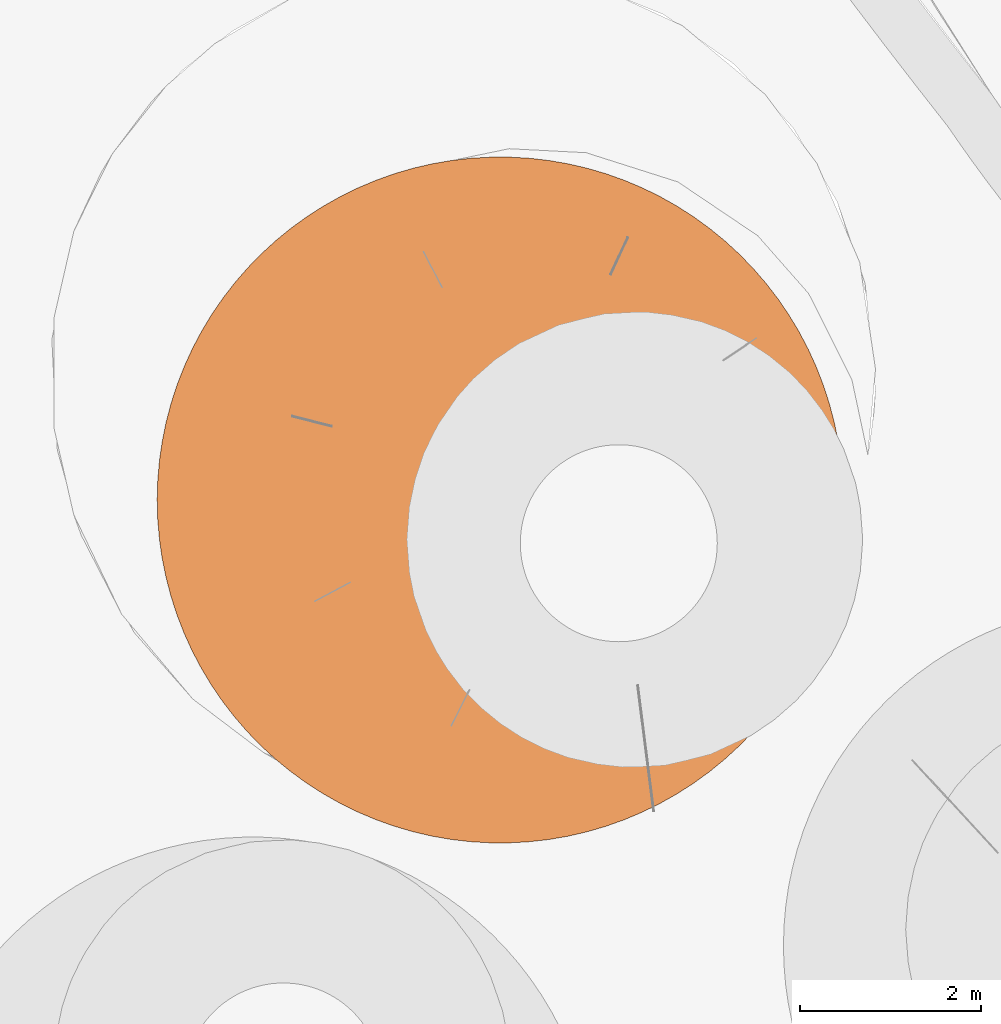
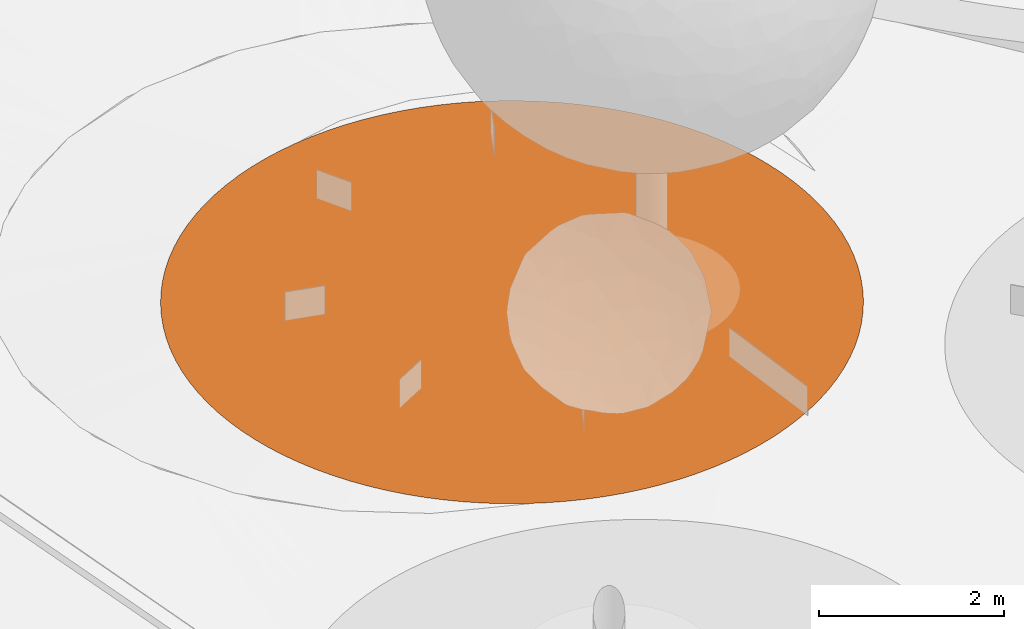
# One storey, part 67 of 75: 1 proxy.
"""IFC2X3 building model written with IfcOpenShell, lengths in metres."""

from ifc_helpers import new_model, entity, si_unit, converted_unit, derived_unit, direction, frame, origin, place, context, subcontext, project, spatial, face_set, surface_model, source, transform, mapped, material, type_object, type_shapes, element, save


model = new_model("IFC2X3")

# Units and contexts
model_context = context("Model", 3, precision=1e-05, world=origin(), true_north=direction((6.123031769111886e-17, 1.0)))
body_context = subcontext(model_context, "Body", "Model", "MODEL_VIEW")
ifc_project = project(units=[si_unit("LENGTHUNIT", "METRE"), si_unit("AREAUNIT", "SQUARE_METRE"), si_unit("VOLUMEUNIT", "CUBIC_METRE"), converted_unit("PLANEANGLEUNIT", "DEGREE", entity("IfcRatioMeasure", 0.017453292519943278), si_unit("PLANEANGLEUNIT", "RADIAN"), dimensions=[0, 0, 0, 0, 0, 0, 0]), si_unit("MASSUNIT", "GRAM", prefix="KILO"), derived_unit("MASSDENSITYUNIT", [(si_unit("MASSUNIT", "GRAM", prefix="KILO"), 1), (si_unit("LENGTHUNIT", "METRE"), -3)]), derived_unit("IONCONCENTRATIONUNIT", [(si_unit("MASSUNIT", "GRAM", prefix="KILO"), 1), (si_unit("LENGTHUNIT", "METRE"), -3)]), derived_unit("MOMENTOFINERTIAUNIT", [(si_unit("LENGTHUNIT", "METRE"), 4)]), si_unit("TIMEUNIT", "SECOND"), si_unit("FREQUENCYUNIT", "HERTZ"), si_unit("THERMODYNAMICTEMPERATUREUNIT", "DEGREE_CELSIUS"), derived_unit("THERMALTRANSMITTANCEUNIT", [(si_unit("MASSUNIT", "GRAM", prefix="KILO"), 1), (si_unit("THERMODYNAMICTEMPERATUREUNIT", "KELVIN"), -1), (si_unit("TIMEUNIT", "SECOND"), -3)]), derived_unit("THERMALCONDUCTANCEUNIT", [(si_unit("MASSUNIT", "GRAM", prefix="KILO"), 1), (si_unit("THERMODYNAMICTEMPERATUREUNIT", "KELVIN"), -1), (si_unit("TIMEUNIT", "SECOND"), -3), (si_unit("LENGTHUNIT", "METRE"), 1)]), derived_unit("VOLUMETRICFLOWRATEUNIT", [(si_unit("LENGTHUNIT", "METRE"), 3), (si_unit("TIMEUNIT", "SECOND"), -1)]), derived_unit("MASSFLOWRATEUNIT", [(si_unit("MASSUNIT", "GRAM", prefix="KILO"), 1), (si_unit("TIMEUNIT", "SECOND"), -1)]), derived_unit("ROTATIONALFREQUENCYUNIT", [(si_unit("TIMEUNIT", "SECOND"), -1)]), si_unit("ELECTRICCURRENTUNIT", "AMPERE"), si_unit("ELECTRICVOLTAGEUNIT", "VOLT"), si_unit("POWERUNIT", "WATT"), si_unit("FORCEUNIT", "NEWTON", prefix="KILO"), si_unit("ILLUMINANCEUNIT", "LUX"), si_unit("LUMINOUSFLUXUNIT", "LUMEN"), si_unit("LUMINOUSINTENSITYUNIT", "CANDELA"), derived_unit("USERDEFINED", [(si_unit("MASSUNIT", "GRAM", prefix="KILO"), -1), (si_unit("LENGTHUNIT", "METRE"), -2), (si_unit("TIMEUNIT", "SECOND"), 3), (si_unit("LUMINOUSFLUXUNIT", "LUMEN"), 1)]), derived_unit("USERDEFINED", [(si_unit("MASSUNIT", "GRAM", prefix="KILO"), 1), (si_unit("TIMEUNIT", "SECOND"), -3), (si_unit("LENGTHUNIT", "METRE"), 3), (si_unit("ELECTRICCURRENTUNIT", "AMPERE"), -2)]), derived_unit("SOUNDPOWERUNIT", [(si_unit("MASSUNIT", "GRAM", prefix="KILO"), 1), (si_unit("TIMEUNIT", "SECOND"), -3), (si_unit("LENGTHUNIT", "METRE"), 2)]), derived_unit("SOUNDPRESSUREUNIT", [(si_unit("MASSUNIT", "GRAM", prefix="KILO"), 1), (si_unit("LENGTHUNIT", "METRE"), -1), (si_unit("TIMEUNIT", "SECOND"), -2)]), derived_unit("LINEARVELOCITYUNIT", [(si_unit("LENGTHUNIT", "METRE"), 1), (si_unit("TIMEUNIT", "SECOND"), -1)]), si_unit("PRESSUREUNIT", "PASCAL"), derived_unit("USERDEFINED", [(si_unit("MASSUNIT", "GRAM", prefix="KILO"), 1), (si_unit("LENGTHUNIT", "METRE"), -2), (si_unit("TIMEUNIT", "SECOND"), -2)]), derived_unit("LINEARFORCEUNIT", [(si_unit("MASSUNIT", "GRAM", prefix="KILO"), 1), (si_unit("TIMEUNIT", "SECOND"), -2)]), derived_unit("PLANARFORCEUNIT", [(si_unit("MASSUNIT", "GRAM", prefix="KILO"), 1), (si_unit("LENGTHUNIT", "METRE"), -1), (si_unit("TIMEUNIT", "SECOND"), -2)]), derived_unit("SPECIFICHEATCAPACITYUNIT", [(si_unit("THERMODYNAMICTEMPERATUREUNIT", "KELVIN"), -1), (si_unit("LENGTHUNIT", "METRE"), 2), (si_unit("TIMEUNIT", "SECOND"), -2)]), derived_unit("HEATINGVALUEUNIT", [(si_unit("LENGTHUNIT", "METRE"), 2), (si_unit("TIMEUNIT", "SECOND"), -2)]), derived_unit("VAPORPERMEABILITYUNIT", [(si_unit("LENGTHUNIT", "METRE"), -1), (si_unit("TIMEUNIT", "SECOND"), 1)]), derived_unit("DYNAMICVISCOSITYUNIT", [(si_unit("MASSUNIT", "GRAM", prefix="KILO"), 1), (si_unit("TIMEUNIT", "SECOND"), -1), (si_unit("LENGTHUNIT", "METRE"), -1)]), derived_unit("THERMALEXPANSIONCOEFFICIENTUNIT", [(si_unit("THERMODYNAMICTEMPERATUREUNIT", "KELVIN"), -1)]), derived_unit("MODULUSOFELASTICITYUNIT", [(si_unit("MASSUNIT", "GRAM", prefix="KILO"), 1), (si_unit("LENGTHUNIT", "METRE"), -1), (si_unit("TIMEUNIT", "SECOND"), -2)]), derived_unit("ISOTHERMALMOISTURECAPACITYUNIT", [(si_unit("LENGTHUNIT", "METRE"), 3), (si_unit("MASSUNIT", "GRAM", prefix="KILO"), -1)]), derived_unit("MOISTUREDIFFUSIVITYUNIT", [(si_unit("TIMEUNIT", "SECOND"), -1), (si_unit("LENGTHUNIT", "METRE"), 2)])], contexts=[model_context])

# Site, building, storey
site_placement = place(None, origin())
site = spatial("IfcSite", under=ifc_project, at=site_placement, Name="Default", CompositionType="ELEMENT")
building_placement = place(site_placement, origin())
building = spatial("IfcBuilding", under=site, at=building_placement, Name="Projeto", CompositionType="ELEMENT")
storey_placement = place(building_placement, origin())
storey = spatial("IfcBuildingStorey", under=building, at=storey_placement, Name="Nível 1", CompositionType="ELEMENT", Elevation=0.0)

# Proxy
ifc_material = material(Name="<Unnamed>")
building_element_proxy_type = type_object("IfcBuildingElementProxyType", Name="Arvore simplificada:Arvore simplificada", PredefinedType="NOTDEFINED", material=ifc_material)
shared_shape = source(origin(), body_context, "Body", "SurfaceModel", [
    surface_model("IfcFaceBasedSurfaceModel", [(-3.9544974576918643, -0.18317979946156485, 0.0), (-3.9483138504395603, -0.3996342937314, 0.0), (-3.929783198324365, -0.6153827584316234, 0.0), (-3.8989659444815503, -0.8297214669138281, 0.0), (-3.855962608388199, -1.0419512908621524, 0.0), (-3.8009134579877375, -1.2513799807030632, 0.0), (-3.733998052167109, -1.4573244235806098, 0.0), (-3.655434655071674, -1.6591128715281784, 0.0), (-3.5654795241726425, -1.8560871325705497, 0.0), (-3.4644260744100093, -2.0476047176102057, 0.0), (-3.3526039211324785, -2.2330409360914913, 0.0), (-3.2303778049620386, -2.411790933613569, 0.0), (-3.098146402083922, -2.583271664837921, 0.0), (-2.9563410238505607, -2.7469237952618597, 0.0), (-2.8054242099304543, -2.9022135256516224, 0.0), (-2.6458882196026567, -3.048634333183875, 0.0), (-2.4782534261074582, -3.1857086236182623, 0.0), (-2.3030666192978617, -3.3129892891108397, 0.0), (-2.12089922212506, -3.430061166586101, 0.0), (-1.93234542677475, -3.5365423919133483, 0.0), (-1.7380202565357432, -3.632085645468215, 0.0), (-1.5385575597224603, -3.7163792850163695, 0.0), (-1.3346079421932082, -3.789148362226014, 0.0), (-1.1268366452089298, -3.8501555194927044, 0.0), (-0.9159213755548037, -3.8992017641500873, 0.0), (-0.7025500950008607, -3.9361271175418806, 0.0), (-0.48741877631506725, -3.9608111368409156, 0.0), (-0.2712291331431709, -3.9731733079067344, 0.0), (-0.054686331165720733, -3.9731733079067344, 0.0), (0.16150331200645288, -3.9608111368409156, 0.0), (0.3766346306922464, -3.9361271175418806, 0.0), (0.5900059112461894, -3.8992017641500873, 0.0), (0.8009211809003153, -3.8501555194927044, 0.0), (1.0086924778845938, -3.789148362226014, 0.0), (1.212642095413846, -3.7163792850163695, 0.0), (1.4121047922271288, -3.632085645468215, 0.0), (1.6064299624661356, -3.5365423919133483, 0.0), (1.7949837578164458, -3.430061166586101, 0.0), (1.9771511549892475, -3.3129892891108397, 0.0), (2.152337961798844, -3.1857086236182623, 0.0), (2.3199727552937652, -3.048634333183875, 0.0), (2.479508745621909, -2.9022135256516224, 0.0), (2.6304255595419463, -2.7469237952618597, 0.0), (2.7722309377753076, -2.583271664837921, 0.0), (2.9044623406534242, -2.411790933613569, 0.0), (3.026688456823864, -2.2330409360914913, 0.0), (3.138510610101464, -2.0476047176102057, 0.0), (3.239564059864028, -1.8560871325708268, 0.0), (3.3295191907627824, -1.6591128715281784, 0.0), (3.4080825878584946, -1.4573244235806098, 0.0), (3.474997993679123, -1.2513799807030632, 0.0), (3.5300471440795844, -1.0419512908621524, 0.0), (3.573050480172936, -0.8297214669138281, 0.0), (3.6038677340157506, -0.6153827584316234, 0.0), (3.622398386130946, -0.3996342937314, 0.0), (3.62858199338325, -0.18317979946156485, 0.0), (3.622398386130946, 0.03327469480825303, 0.0), (3.6038677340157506, 0.24902315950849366, 0.0), (3.573050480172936, 0.4633618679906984, 0.0), (3.5300471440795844, 0.6755916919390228, 0.0), (3.474997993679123, 0.8850203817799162, 0.0), (3.4080825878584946, 1.0909648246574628, 0.0), (3.3295191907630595, 1.2927532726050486, 0.0), (3.239564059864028, 1.4897275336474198, 0.0), (3.138510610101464, 1.6812451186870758, 0.0), (3.026688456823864, 1.8666813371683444, 0.0), (2.9044623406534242, 2.0454313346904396, 0.0), (2.7722309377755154, 2.2169120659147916, 0.0), (2.6304255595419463, 2.38056419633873, 0.0), (2.479508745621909, 2.535853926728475, 0.0), (2.3199727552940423, 2.682274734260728, 0.0), (2.152337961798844, 2.819349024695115, 0.0), (1.9771511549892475, 2.946629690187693, 0.0), (1.7949837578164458, 3.063701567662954, 0.0), (1.6064299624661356, 3.1701827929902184, 0.0), (1.4121047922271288, 3.265726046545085, 0.0), (1.212642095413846, 3.3500196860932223, 0.0), (1.0086924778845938, 3.422788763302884, 0.0), (0.8009211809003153, 3.4837959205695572, 0.0), (0.5900059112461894, 3.5328421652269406, 0.0), (0.3766346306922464, 3.5697675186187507, 0.0), (0.16150331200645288, 3.5944515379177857, 0.0), (-0.05468633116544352, 3.606813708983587, 0.0), (-0.27122913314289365, 3.606813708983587, 0.0), (-0.48741877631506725, 3.5944515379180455, 0.0), (-0.7025500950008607, 3.5697675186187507, 0.0), (-0.9159213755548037, 3.5328421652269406, 0.0), (-1.1268366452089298, 3.4837959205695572, 0.0), (-1.3346079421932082, 3.422788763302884, 0.0), (-1.5385575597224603, 3.3500196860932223, 0.0), (-1.7380202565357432, 3.265726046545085, 0.0), (-1.93234542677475, 3.1701827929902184, 0.0), (-2.12089922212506, 3.063701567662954, 0.0), (-2.3030666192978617, 2.946629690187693, 0.0), (-2.4782534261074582, 2.819349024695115, 0.0), (-2.6458882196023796, 2.682274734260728, 0.0), (-2.8054242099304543, 2.535853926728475, 0.0), (-2.9563410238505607, 2.38056419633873, 0.0), (-3.098146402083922, 2.2169120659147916, 0.0), (-3.2303778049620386, 2.0454313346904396, 0.0), (-3.3526039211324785, 1.8666813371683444, 0.0), (-3.4644260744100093, 1.6812451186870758, 0.0), (-3.5654795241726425, 1.4897275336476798, 0.0), (-3.6554346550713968, 1.2927532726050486, 0.0), (-3.733998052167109, 1.0909648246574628, 0.0), (-3.8009134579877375, 0.8850203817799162, 0.0), (-3.855962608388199, 0.6755916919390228, 0.0), (-3.8989659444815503, 0.4633618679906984, 0.0), (-3.929783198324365, 0.24902315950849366, 0.0), (-3.9483138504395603, 0.03327469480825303, 0.0)], [face_set([[[0, 1, 2, 3, 4, 5, 6, 7, 8, 9, 10, 11, 12, 13, 14, 15, 16, 17, 18, 19, 20, 21, 22, 23, 24, 25, 26, 27, 28, 29, 30, 31, 32, 33, 34, 35, 36, 37, 38, 39, 40, 41, 42, 43, 44, 45, 46, 47, 48, 49, 50, 51, 52, 53, 54, 55, 56, 57, 58, 59, 60, 61, 62, 63, 64, 65, 66, 67, 68, 69, 70, 71, 72, 73, 74, 75, 76, 77, 78, 79, 80, 81, 82, 83, 84, 85, 86, 87, 88, 89, 90, 91, 92, 93, 94, 95, 96, 97, 98, 99, 100, 101, 102, 103, 104, 105, 106, 107, 108, 109]]])]),
])
type_shapes(building_element_proxy_type, [shared_shape])
proxy_placement = place(storey_placement, frame((-17.677017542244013, -11.18219189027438, 0.0), z_axis=(0.0, 0.0, 1.0), x_axis=(0.9422539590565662, 0.3348992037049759, 0.0)))
element("IfcBuildingElementProxy", 1, at=proxy_placement, inside=storey, type_object=building_element_proxy_type, material=ifc_material, Name="Arvore simplificada:Arvore simplificada", ObjectType="Arvore simplificada:Arvore simplificada", context=body_context, shape_type="MappedRepresentation", body=[
    mapped(shared_shape, transform((0.0, 0.0, 0.0), scale=1.0)),
])

save(model, "model.ifc")
